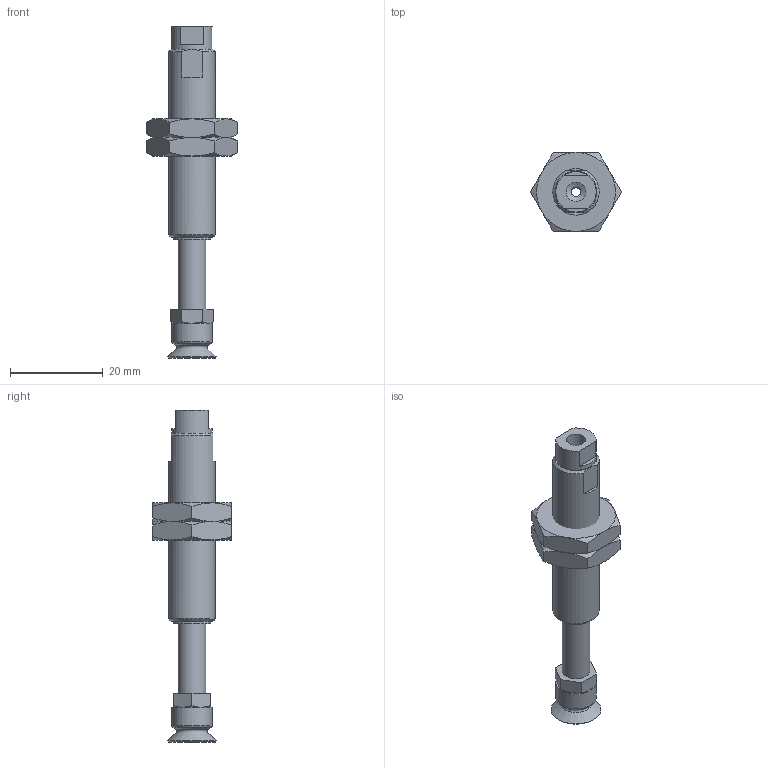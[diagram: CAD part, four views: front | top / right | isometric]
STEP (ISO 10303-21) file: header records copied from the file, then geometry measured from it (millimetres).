
FILE_DESCRIPTION(('STEP AP203'),'1');
FILE_NAME('-LB.stp','2025-10-10T05:49:42',(' '),(' '),'Spatial InterOp 3D',' ',' ');
FILE_SCHEMA(('CONFIG_CONTROL_DESIGN'));
Length unit declared in the file: millimetre
Products named in the file (8): BNABPFTH-10A-15-※-LB; NUT; __; BODY; TN-PS-10-M5; Setting screws-TN-PS-10-M5; BPFG-10A-※
Assembly tree (7 placements, depth 3):
  BNABPFTH-10A-15-※-LB
    NUT
    NUT
    __
    BODY
    TN-PS-10-M5
      Setting screws-TN-PS-10-M5
    BPFG-10A-※
Bounding box: 19.63 x 17 x 71.5 mm (x, y, z)
Volume: 5579.9 mm3; surface area: 4669.5 mm2
Topology: 6 solids, 6 shells, 126 faces, 266 edges, 161 vertices
Faces by surface type: plane 59, cone 41, cylinder 18, torus 7, bspline 1
Full cylindrical faces by diameter (mm): 2 x3, 3.9 x1, 4 x2, 4.2 x2, 5 x1, 6 x3, 8 x1, 8.7 x2, 9 x2, 10 x1
Entity records: 3637 total; most frequent: CARTESIAN_POINT 768, DIRECTION 522, ORIENTED_EDGE 444, AXIS2_PLACEMENT_3D 230, EDGE_CURVE 222, EDGE_LOOP 182, FACE_OUTER_BOUND 152, VERTEX_POINT 152
